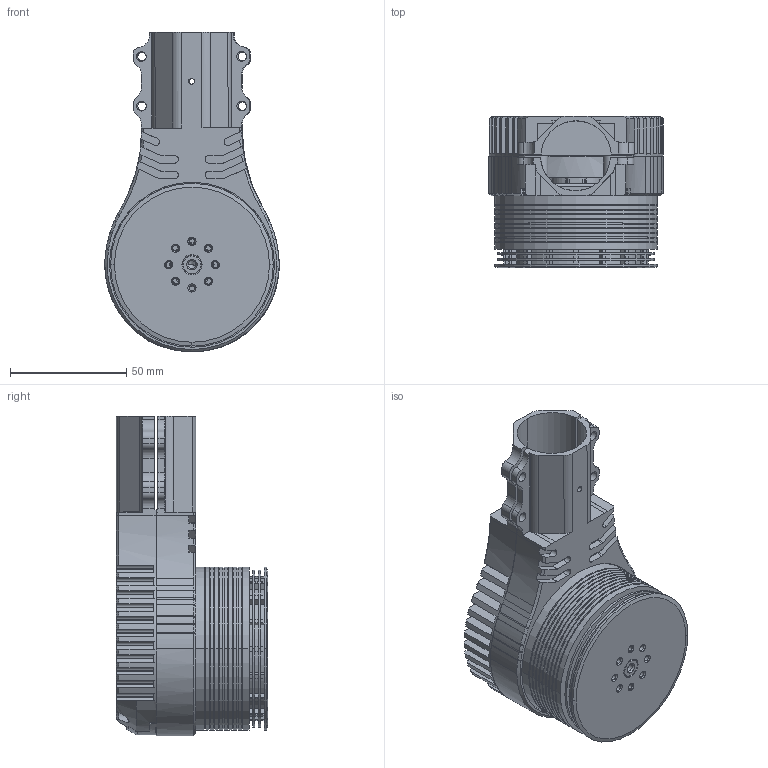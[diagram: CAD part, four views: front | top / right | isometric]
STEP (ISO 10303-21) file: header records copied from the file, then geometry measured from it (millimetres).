
FILE_DESCRIPTION (( 'STEP AP203' ), '1' );
FILE_NAME ('IPU X6 6218.STEP', '2025-10-09T06:24:46', ( '' ), ( '' ), 'STEP 2.0', 'RD CAD', '' );
FILE_SCHEMA (( 'CONFIG_CONTROL_DESIGN' ));
Length unit declared in the file: millimetre
Products named in the file (1): IPU X6 6218
Bounding box: 75.03 x 65.05 x 137.54 mm (x, y, z)
Volume: 237690.2 mm3; surface area: 93772.1 mm2
Topology: 1 solids, 25 shells, 2261 faces, 6216 edges, 3961 vertices
Faces by surface type: cylinder 946, plane 928, cone 326, bspline 39, torus 14, sphere 8
Entity records: 75574 total; most frequent: CARTESIAN_POINT 16349, DIRECTION 13020, ORIENTED_EDGE 12360, EDGE_CURVE 6180, AXIS2_PLACEMENT_3D 4915, VERTEX_POINT 3961, VECTOR 3190, LINE 3190
